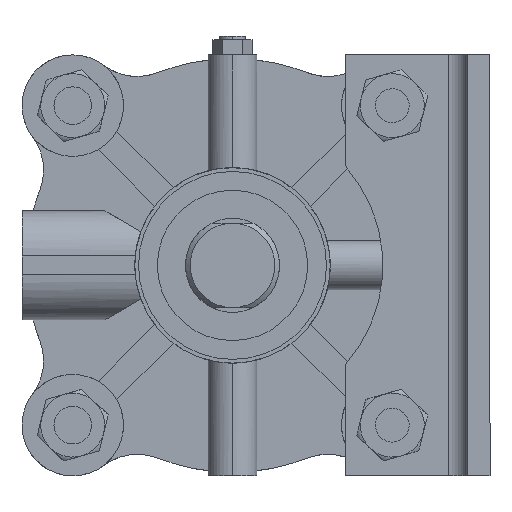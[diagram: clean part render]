
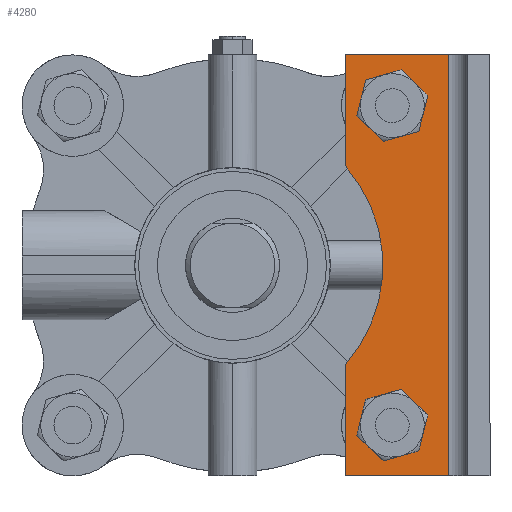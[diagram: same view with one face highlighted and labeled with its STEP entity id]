
A CAD part, left-side view. The second image highlights one B-rep face of the part: STEP entity #4280.
In plain terms, the highlighted planar face has unit normal (-1, 0, 0) as drawn and (0, 0, 1) by its records, which use the part's own axes.
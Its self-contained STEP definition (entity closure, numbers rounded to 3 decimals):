
#3 = LINE ( 'NONE', #2994, #6518 ) ;
#147 = CARTESIAN_POINT ( 'NONE',  ( 0., -63.135, 0. ) ) ;
#331 = CIRCLE ( 'NONE', #2312, 10. ) ;
#375 = CARTESIAN_POINT ( 'NONE',  ( -85., -33.135, 0. ) ) ;
#390 = DIRECTION ( 'NONE',  ( -1., 0., 0. ) ) ;
#450 = CARTESIAN_POINT ( 'NONE',  ( -85., -33.135, 0. ) ) ;
#473 = ORIENTED_EDGE ( 'NONE', *, *, #6358, .T. ) ;
#482 = DIRECTION ( 'NONE',  ( 1., 0., 0. ) ) ;
#782 = VERTEX_POINT ( 'NONE', #4423 ) ;
#804 = LINE ( 'NONE', #147, #2259 ) ;
#1023 = VERTEX_POINT ( 'NONE', #2872 ) ;
#1026 = FACE_BOUND ( 'NONE', #8792, .T. ) ;
#1167 = DIRECTION ( 'NONE',  ( 0., -1., 0. ) ) ;
#1211 = DIRECTION ( 'NONE',  ( 0., 0., 1. ) ) ;
#1288 = CARTESIAN_POINT ( 'NONE',  ( 112., 0., 0. ) ) ;
#1299 = VECTOR ( 'NONE', #8391, 1000. ) ;
#1518 = AXIS2_PLACEMENT_3D ( 'NONE', #7420, #3250, #9650 ) ;
#1543 = CARTESIAN_POINT ( 'NONE',  ( -75., -33.135, 0. ) ) ;
#1639 = ORIENTED_EDGE ( 'NONE', *, *, #7536, .F. ) ;
#1723 = AXIS2_PLACEMENT_3D ( 'NONE', #7511, #6006, #8005 ) ;
#2024 = CIRCLE ( 'NONE', #1723, 80. ) ;
#2036 = PLANE ( 'NONE',  #7141 ) ;
#2130 = ORIENTED_EDGE ( 'NONE', *, *, #5464, .T. ) ;
#2205 = CARTESIAN_POINT ( 'NONE',  ( 0., 0., 0. ) ) ;
#2252 = EDGE_CURVE ( 'NONE', #8900, #8132, #804, .T. ) ;
#2257 = CARTESIAN_POINT ( 'NONE',  ( -52.915, -8.135, 0. ) ) ;
#2259 = VECTOR ( 'NONE', #6978, 1000. ) ;
#2312 = AXIS2_PLACEMENT_3D ( 'NONE', #4996, #7969, #482 ) ;
#2623 = VERTEX_POINT ( 'NONE', #8417 ) ;
#2872 = CARTESIAN_POINT ( 'NONE',  ( -95., -33.135, 0. ) ) ;
#2994 = CARTESIAN_POINT ( 'NONE',  ( -112., 0., 0. ) ) ;
#3250 = DIRECTION ( 'NONE',  ( 0., 0., 1. ) ) ;
#3300 = EDGE_LOOP ( 'NONE', ( #6467, #9213 ) ) ;
#3356 = DIRECTION ( 'NONE',  ( 1., 0., 0. ) ) ;
#3393 = VERTEX_POINT ( 'NONE', #6337 ) ;
#3513 = FACE_OUTER_BOUND ( 'NONE', #5931, .T. ) ;
#3762 = VERTEX_POINT ( 'NONE', #4675 ) ;
#3925 = DIRECTION ( 'NONE',  ( 1., 0., 0. ) ) ;
#4026 = CARTESIAN_POINT ( 'NONE',  ( -112., -63.135, 0. ) ) ;
#4030 = FACE_BOUND ( 'NONE', #3300, .T. ) ;
#4136 = ORIENTED_EDGE ( 'NONE', *, *, #6718, .F. ) ;
#4280 = ADVANCED_FACE ( 'NONE', ( #3513, #4030, #1026 ), #2036, .T. ) ;
#4341 = ORIENTED_EDGE ( 'NONE', *, *, #8017, .T. ) ;
#4375 = CARTESIAN_POINT ( 'NONE',  ( 0., -8.135, 0. ) ) ;
#4403 = AXIS2_PLACEMENT_3D ( 'NONE', #375, #1211, #6213 ) ;
#4423 = CARTESIAN_POINT ( 'NONE',  ( 52.915, -8.135, 0. ) ) ;
#4543 = CIRCLE ( 'NONE', #4403, 10. ) ;
#4558 = LINE ( 'NONE', #9937, #7459 ) ;
#4633 = VERTEX_POINT ( 'NONE', #4922 ) ;
#4638 = VERTEX_POINT ( 'NONE', #2257 ) ;
#4675 = CARTESIAN_POINT ( 'NONE',  ( 95., -33.135, 0. ) ) ;
#4906 = CARTESIAN_POINT ( 'NONE',  ( 112., -63.135, 0. ) ) ;
#4922 = CARTESIAN_POINT ( 'NONE',  ( 112., -8.135, 0. ) ) ;
#4923 = EDGE_CURVE ( 'NONE', #1023, #5310, #4543, .T. ) ;
#4996 = CARTESIAN_POINT ( 'NONE',  ( 85., -33.135, 0. ) ) ;
#5229 = LINE ( 'NONE', #4375, #1299 ) ;
#5310 = VERTEX_POINT ( 'NONE', #1543 ) ;
#5450 = DIRECTION ( 'NONE',  ( 0., -1., 0. ) ) ;
#5464 = EDGE_CURVE ( 'NONE', #4638, #2623, #5229, .T. ) ;
#5473 = AXIS2_PLACEMENT_3D ( 'NONE', #450, #6783, #3925 ) ;
#5931 = EDGE_LOOP ( 'NONE', ( #473, #8100, #6121, #4341, #6532, #2130 ) ) ;
#6006 = DIRECTION ( 'NONE',  ( 0., 0., 1. ) ) ;
#6121 = ORIENTED_EDGE ( 'NONE', *, *, #8262, .F. ) ;
#6213 = DIRECTION ( 'NONE',  ( 1., 0., 0. ) ) ;
#6337 = CARTESIAN_POINT ( 'NONE',  ( 75., -33.135, 0. ) ) ;
#6358 = EDGE_CURVE ( 'NONE', #2623, #8900, #3, .T. ) ;
#6467 = ORIENTED_EDGE ( 'NONE', *, *, #8401, .F. ) ;
#6510 = EDGE_CURVE ( 'NONE', #4638, #782, #2024, .T. ) ;
#6518 = VECTOR ( 'NONE', #1167, 1000. ) ;
#6532 = ORIENTED_EDGE ( 'NONE', *, *, #6510, .F. ) ;
#6718 = EDGE_CURVE ( 'NONE', #3762, #3393, #9123, .T. ) ;
#6783 = DIRECTION ( 'NONE',  ( 0., 0., 1. ) ) ;
#6978 = DIRECTION ( 'NONE',  ( 1., 0., 0. ) ) ;
#7129 = VECTOR ( 'NONE', #5450, 1000. ) ;
#7141 = AXIS2_PLACEMENT_3D ( 'NONE', #2205, #8026, #3356 ) ;
#7420 = CARTESIAN_POINT ( 'NONE',  ( 85., -33.135, 0. ) ) ;
#7459 = VECTOR ( 'NONE', #390, 1000. ) ;
#7511 = CARTESIAN_POINT ( 'NONE',  ( 0., 51.865, 0. ) ) ;
#7536 = EDGE_CURVE ( 'NONE', #3393, #3762, #331, .T. ) ;
#7943 = CIRCLE ( 'NONE', #5473, 10. ) ;
#7969 = DIRECTION ( 'NONE',  ( 0., 0., 1. ) ) ;
#8005 = DIRECTION ( 'NONE',  ( 1., 0., 0. ) ) ;
#8017 = EDGE_CURVE ( 'NONE', #4633, #782, #4558, .T. ) ;
#8026 = DIRECTION ( 'NONE',  ( 0., 0., 1. ) ) ;
#8100 = ORIENTED_EDGE ( 'NONE', *, *, #2252, .T. ) ;
#8132 = VERTEX_POINT ( 'NONE', #4906 ) ;
#8262 = EDGE_CURVE ( 'NONE', #4633, #8132, #9142, .T. ) ;
#8391 = DIRECTION ( 'NONE',  ( -1., 0., 0. ) ) ;
#8401 = EDGE_CURVE ( 'NONE', #5310, #1023, #7943, .T. ) ;
#8417 = CARTESIAN_POINT ( 'NONE',  ( -112., -8.135, 0. ) ) ;
#8792 = EDGE_LOOP ( 'NONE', ( #4136, #1639 ) ) ;
#8900 = VERTEX_POINT ( 'NONE', #4026 ) ;
#9123 = CIRCLE ( 'NONE', #1518, 10. ) ;
#9142 = LINE ( 'NONE', #1288, #7129 ) ;
#9213 = ORIENTED_EDGE ( 'NONE', *, *, #4923, .F. ) ;
#9650 = DIRECTION ( 'NONE',  ( 1., 0., 0. ) ) ;
#9937 = CARTESIAN_POINT ( 'NONE',  ( 0., -8.135, 0. ) ) ;
